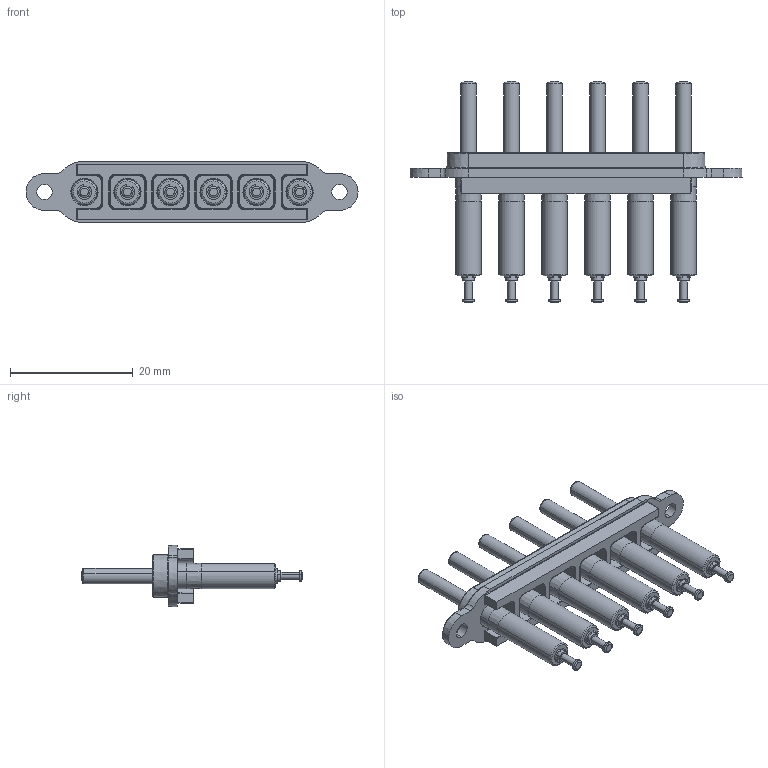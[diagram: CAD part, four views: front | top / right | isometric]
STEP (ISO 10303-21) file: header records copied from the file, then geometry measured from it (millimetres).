
FILE_DESCRIPTION (( 'STEP AP214' ), '1' );
FILE_NAME ('ICA-6-SCT.STEP', '2023-02-08T10:40:36', ( '' ), ( '' ), 'SwSTEP 2.0', 'SolidWorks 2022', '' );
FILE_SCHEMA (( 'AUTOMOTIVE_DESIGN' ));
Length unit declared in the file: millimetre
Products named in the file (3): ICA-6-SCT; ISC2JST; SD SC 6
Assembly tree (7 placements, depth 2):
  ICA-6-SCT
    SD SC 6
    ISC2JST  x6
Bounding box: 54 x 35.95 x 10 mm (x, y, z)
Volume: 3485.8 mm3; surface area: 4481.1 mm2
Topology: 25 solids, 25 shells, 650 faces, 1518 edges, 942 vertices
Faces by surface type: bspline 270, cylinder 192, plane 92, cone 72, sphere 12, torus 12
Entity records: 13473 total; most frequent: CARTESIAN_POINT 3931, ORIENTED_EDGE 1476, DIRECTION 1236, EDGE_CURVE 738, AXIS2_PLACEMENT_3D 482, VERTEX_POINT 437, EDGE_LOOP 345, FACE_OUTER_BOUND 320
